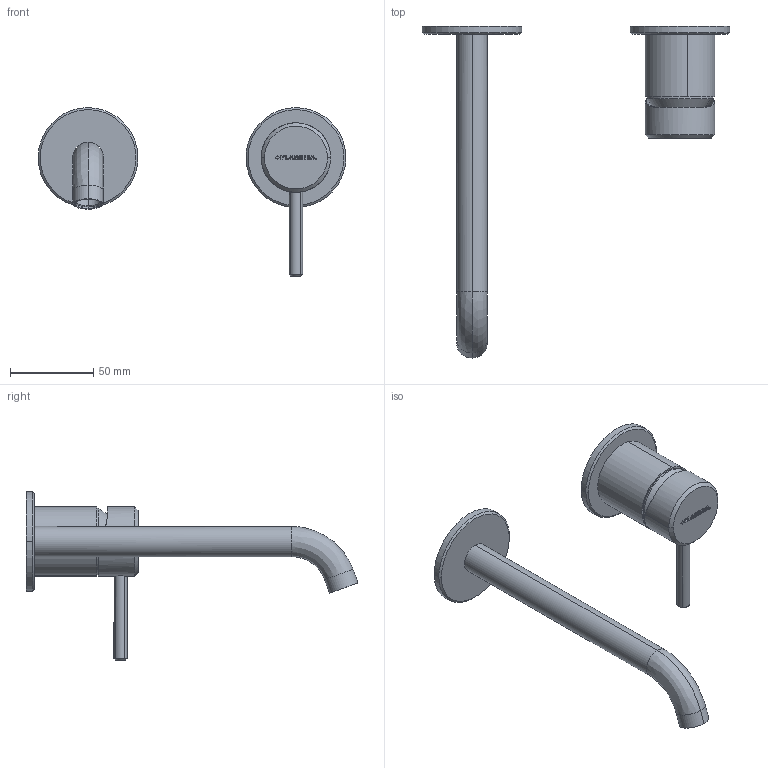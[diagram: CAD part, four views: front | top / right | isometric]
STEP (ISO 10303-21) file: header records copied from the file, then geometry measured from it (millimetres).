
FILE_DESCRIPTION(/* description */ (''),/* implementation_level */ '2;1');
FILE_NAME(/* name */ 'ST3059ACC',/* time_stamp */ '2024-03-14T15:10:40+01:00',/* author */ (''),/* organization */ (''),/* preprocessor_version */ 'ST-DEVELOPER v16.5',/* originating_system */ 'Rhino 7.36',/* authorisation */ '');
FILE_SCHEMA (('CONFIG_CONTROL_DESIGN'));
Length unit declared in the file: millimetre
Products named in the file (1): Document
Bounding box: 185 x 199.53 x 101.32 mm (x, y, z)
Volume: 71921.6 mm3; surface area: 38163 mm2
Topology: 13 solids, 17 shells, 273 faces, 672 edges, 440 vertices
Faces by surface type: plane 213, cylinder 35, bspline 25
Entity records: 7759 total; most frequent: CARTESIAN_POINT 3059, ORIENTED_EDGE 1318, EDGE_CURVE 672, B_SPLINE_CURVE_WITH_KNOTS 524, VERTEX_POINT 440, EDGE_LOOP 298, ADVANCED_FACE 273, FACE_OUTER_BOUND 273
